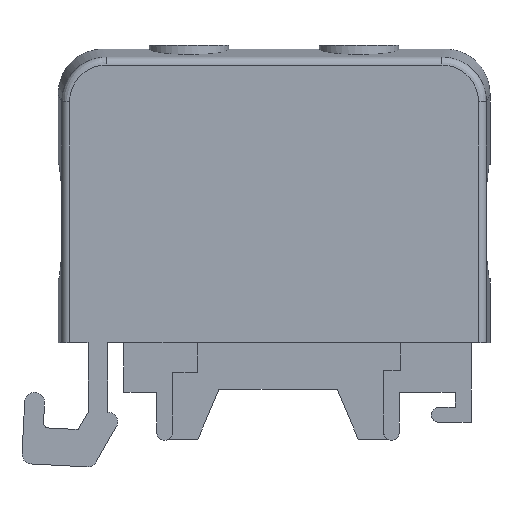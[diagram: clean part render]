
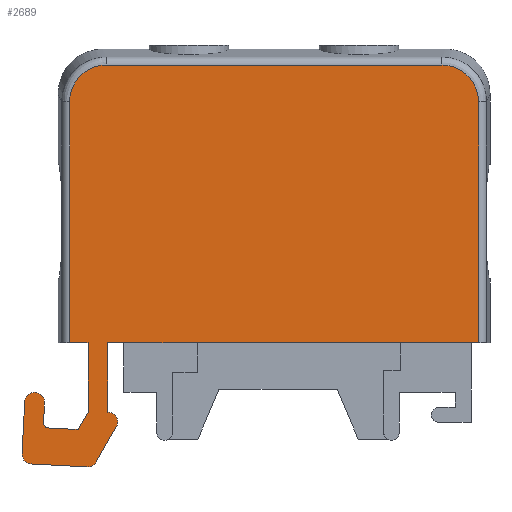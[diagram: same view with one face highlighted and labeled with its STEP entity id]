
A CAD part, front view. The second image highlights one B-rep face of the part: STEP entity #2689.
In plain terms, the highlighted planar face has unit normal (0, -1, 0).
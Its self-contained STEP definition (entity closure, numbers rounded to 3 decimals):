
#43=CIRCLE('',#2836,0.979);
#45=CIRCLE('',#2840,1.);
#47=CIRCLE('',#2844,1.);
#49=CIRCLE('',#2848,1.);
#51=CIRCLE('',#2852,0.5);
#98=ELLIPSE('',#2903,3.742,3.7);
#99=ELLIPSE('',#2904,3.742,3.7);
#546=ORIENTED_EDGE('',*,*,#1084,.T.);
#547=ORIENTED_EDGE('',*,*,#1079,.F.);
#548=ORIENTED_EDGE('',*,*,#1076,.F.);
#549=ORIENTED_EDGE('',*,*,#1073,.F.);
#550=ORIENTED_EDGE('',*,*,#1070,.F.);
#551=ORIENTED_EDGE('',*,*,#1067,.F.);
#552=ORIENTED_EDGE('',*,*,#1064,.F.);
#553=ORIENTED_EDGE('',*,*,#1061,.F.);
#554=ORIENTED_EDGE('',*,*,#1058,.F.);
#555=ORIENTED_EDGE('',*,*,#1055,.F.);
#556=ORIENTED_EDGE('',*,*,#1052,.F.);
#557=ORIENTED_EDGE('',*,*,#1049,.F.);
#558=ORIENTED_EDGE('',*,*,#1046,.F.);
#559=ORIENTED_EDGE('',*,*,#1131,.F.);
#560=ORIENTED_EDGE('',*,*,#1144,.T.);
#561=ORIENTED_EDGE('',*,*,#1181,.F.);
#562=ORIENTED_EDGE('',*,*,#1182,.F.);
#563=ORIENTED_EDGE('',*,*,#1183,.F.);
#564=ORIENTED_EDGE('',*,*,#1184,.F.);
#565=ORIENTED_EDGE('',*,*,#1185,.F.);
#1046=EDGE_CURVE('',#1416,#1417,#43,.T.);
#1049=EDGE_CURVE('',#1417,#1419,#1672,.T.);
#1052=EDGE_CURVE('',#1419,#1421,#45,.T.);
#1055=EDGE_CURVE('',#1421,#1423,#1676,.T.);
#1058=EDGE_CURVE('',#1423,#1425,#47,.T.);
#1061=EDGE_CURVE('',#1425,#1427,#1680,.T.);
#1064=EDGE_CURVE('',#1427,#1429,#49,.T.);
#1067=EDGE_CURVE('',#1429,#1431,#1684,.T.);
#1070=EDGE_CURVE('',#1431,#1433,#51,.T.);
#1073=EDGE_CURVE('',#1433,#1435,#1688,.T.);
#1076=EDGE_CURVE('',#1435,#1437,#1691,.T.);
#1079=EDGE_CURVE('',#1437,#1439,#1694,.T.);
#1084=EDGE_CURVE('',#1442,#1439,#1699,.T.);
#1131=EDGE_CURVE('',#1476,#1416,#1735,.T.);
#1144=EDGE_CURVE('',#1476,#1485,#1748,.T.);
#1181=EDGE_CURVE('',#1507,#1485,#1778,.T.);
#1182=EDGE_CURVE('',#1508,#1507,#98,.F.);
#1183=EDGE_CURVE('',#1509,#1508,#1779,.T.);
#1184=EDGE_CURVE('',#1510,#1509,#99,.F.);
#1185=EDGE_CURVE('',#1442,#1510,#1780,.F.);
#1416=VERTEX_POINT('',#4033);
#1417=VERTEX_POINT('',#4035);
#1419=VERTEX_POINT('',#4041);
#1421=VERTEX_POINT('',#4047);
#1423=VERTEX_POINT('',#4053);
#1425=VERTEX_POINT('',#4059);
#1427=VERTEX_POINT('',#4065);
#1429=VERTEX_POINT('',#4071);
#1431=VERTEX_POINT('',#4077);
#1433=VERTEX_POINT('',#4083);
#1435=VERTEX_POINT('',#4089);
#1437=VERTEX_POINT('',#4095);
#1439=VERTEX_POINT('',#4101);
#1442=VERTEX_POINT('',#4110);
#1476=VERTEX_POINT('',#4200);
#1485=VERTEX_POINT('',#4226);
#1507=VERTEX_POINT('',#4299);
#1508=VERTEX_POINT('',#4301);
#1509=VERTEX_POINT('',#4303);
#1510=VERTEX_POINT('',#4305);
#1672=LINE('',#4040,#1981);
#1676=LINE('',#4052,#1985);
#1680=LINE('',#4064,#1989);
#1684=LINE('',#4076,#1993);
#1688=LINE('',#4088,#1997);
#1691=LINE('',#4094,#2000);
#1694=LINE('',#4100,#2003);
#1699=LINE('',#4109,#2008);
#1735=LINE('',#4201,#2044);
#1748=LINE('',#4225,#2057);
#1778=LINE('',#4298,#2087);
#1779=LINE('',#4302,#2088);
#1780=LINE('',#4306,#2089);
#1981=VECTOR('',#3213,1000.);
#1985=VECTOR('',#3225,1000.);
#1989=VECTOR('',#3237,1000.);
#1993=VECTOR('',#3249,1000.);
#1997=VECTOR('',#3261,1000.);
#2000=VECTOR('',#3266,1000.);
#2003=VECTOR('',#3271,1000.);
#2008=VECTOR('',#3278,1000.);
#2044=VECTOR('',#3356,1000.);
#2057=VECTOR('',#3375,1000.);
#2087=VECTOR('',#3447,1000.);
#2088=VECTOR('',#3450,1000.);
#2089=VECTOR('',#3453,1000.);
#2274=EDGE_LOOP('',(#546,#547,#548,#549,#550,#551,#552,#553,#554,#555,#556,
#557,#558,#559,#560,#561,#562,#563,#564,#565));
#2431=FACE_BOUND('',#2274,.T.);
#2566=PLANE('',#2902);
#2689=ADVANCED_FACE('',(#2431),#2566,.F.);
#2836=AXIS2_PLACEMENT_3D('',#4034,#3206,#3207);
#2840=AXIS2_PLACEMENT_3D('',#4046,#3218,#3219);
#2844=AXIS2_PLACEMENT_3D('',#4058,#3230,#3231);
#2848=AXIS2_PLACEMENT_3D('',#4070,#3242,#3243);
#2852=AXIS2_PLACEMENT_3D('',#4082,#3254,#3255);
#2902=AXIS2_PLACEMENT_3D('',#4297,#3445,#3446);
#2903=AXIS2_PLACEMENT_3D('',#4300,#3448,#3449);
#2904=AXIS2_PLACEMENT_3D('',#4304,#3451,#3452);
#3206=DIRECTION('',(0.,1.,0.));
#3207=DIRECTION('',(-1.,0.,0.));
#3213=DIRECTION('',(-0.5,0.,-0.866));
#3218=DIRECTION('',(0.,1.,0.));
#3219=DIRECTION('',(1.,0.,0.));
#3225=DIRECTION('',(-0.999,0.,0.052));
#3230=DIRECTION('',(0.,1.,0.));
#3231=DIRECTION('',(1.,0.,0.));
#3237=DIRECTION('',(0.052,0.,0.999));
#3242=DIRECTION('',(0.,1.,0.));
#3243=DIRECTION('',(-1.,0.,0.));
#3249=DIRECTION('',(-0.052,0.,-0.999));
#3254=DIRECTION('',(0.,-1.,0.));
#3255=DIRECTION('',(1.,0.,0.));
#3261=DIRECTION('',(0.999,0.,-0.052));
#3266=DIRECTION('',(0.5,0.,0.866));
#3271=DIRECTION('',(0.,0.,1.));
#3278=DIRECTION('',(1.,0.,0.));
#3356=DIRECTION('',(0.,0.,-1.));
#3375=DIRECTION('',(1.,0.,0.));
#3445=DIRECTION('',(0.,1.,0.));
#3446=DIRECTION('',(0.,0.,-1.));
#3447=DIRECTION('',(0.,0.,-1.));
#3448=DIRECTION('',(0.,-1.,0.));
#3449=DIRECTION('',(-0.406,0.,-0.914));
#3450=DIRECTION('',(1.,0.,0.));
#3451=DIRECTION('',(0.,-1.,0.));
#3452=DIRECTION('',(-0.406,0.,0.914));
#3453=DIRECTION('',(0.,0.,-1.));
#4033=CARTESIAN_POINT('',(5.,-6.5,-7.));
#4034=CARTESIAN_POINT('',(5.,-6.5,-7.979));
#4035=CARTESIAN_POINT('',(5.848,-6.5,-8.468));
#4040=CARTESIAN_POINT('',(5.848,-6.5,-8.468));
#4041=CARTESIAN_POINT('',(3.817,-6.5,-11.986));
#4046=CARTESIAN_POINT('',(2.951,-6.5,-11.486));
#4047=CARTESIAN_POINT('',(2.898,-6.5,-12.484));
#4052=CARTESIAN_POINT('',(2.898,-6.5,-12.484));
#4053=CARTESIAN_POINT('',(-2.687,-6.5,-12.191));
#4058=CARTESIAN_POINT('',(-2.635,-6.5,-11.193));
#4059=CARTESIAN_POINT('',(-3.634,-6.5,-11.141));
#4064=CARTESIAN_POINT('',(-3.634,-6.5,-11.141));
#4065=CARTESIAN_POINT('',(-3.362,-6.5,-5.948));
#4070=CARTESIAN_POINT('',(-2.363,-6.5,-6.));
#4071=CARTESIAN_POINT('',(-1.364,-6.5,-6.052));
#4076=CARTESIAN_POINT('',(-1.469,-6.5,-8.05));
#4077=CARTESIAN_POINT('',(-1.469,-6.5,-8.05));
#4082=CARTESIAN_POINT('',(-0.97,-6.5,-8.076));
#4083=CARTESIAN_POINT('',(-0.996,-6.5,-8.575));
#4088=CARTESIAN_POINT('',(2.,-6.5,-8.732));
#4089=CARTESIAN_POINT('',(2.,-6.5,-8.732));
#4094=CARTESIAN_POINT('',(3.,-6.5,-7.));
#4095=CARTESIAN_POINT('',(3.,-6.5,-7.));
#4100=CARTESIAN_POINT('',(3.,-6.5,0.));
#4101=CARTESIAN_POINT('',(3.,-6.5,0.));
#4109=CARTESIAN_POINT('',(0.,-6.5,0.));
#4110=CARTESIAN_POINT('',(1.152,-6.5,0.));
#4200=CARTESIAN_POINT('',(5.,-6.5,0.));
#4201=CARTESIAN_POINT('',(5.,-6.5,0.));
#4225=CARTESIAN_POINT('',(0.,-6.5,0.));
#4226=CARTESIAN_POINT('',(42.248,-6.5,0.));
#4297=CARTESIAN_POINT('',(0.,-6.5,0.));
#4298=CARTESIAN_POINT('',(42.248,-6.5,0.));
#4299=CARTESIAN_POINT('',(42.248,-6.5,24.199));
#4300=CARTESIAN_POINT('',(38.541,-6.5,24.168));
#4301=CARTESIAN_POINT('',(38.572,-6.5,27.903));
#4302=CARTESIAN_POINT('',(0.,-6.5,27.903));
#4303=CARTESIAN_POINT('',(4.828,-6.5,27.903));
#4304=CARTESIAN_POINT('',(4.859,-6.5,24.168));
#4305=CARTESIAN_POINT('',(1.152,-6.5,24.199));
#4306=CARTESIAN_POINT('',(1.152,-6.5,24.095));
